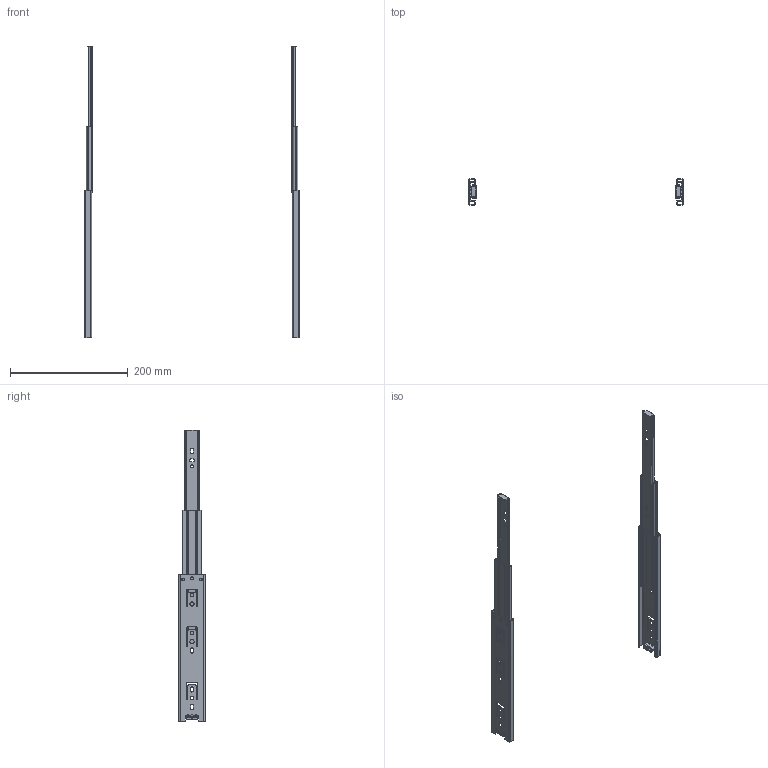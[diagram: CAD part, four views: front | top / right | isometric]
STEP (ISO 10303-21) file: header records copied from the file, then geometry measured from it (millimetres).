
FILE_DESCRIPTION(/* description */ (''),/* implementation_level */ '2;1');
FILE_NAME(/* name */ 'D:\$Workingspace\Designs\Katalog\Cadsoft\GTV Prowadnice\Prowadnice GTV_bryły 3D\PK-0H45250GX_wysunieta.stp',/* time_stamp */ '2016-11-22T11:41:10+01:00',/* author */ ('tomaszw'),/* organization */ (''),/* preprocessor_version */ 'ST-DEVELOPER v16.1',/* originating_system */ 'Autodesk Inventor 2016',/* authorisation */ '');
FILE_SCHEMA (('AUTOMOTIVE_DESIGN { 1 0 10303 214 3 1 1 }'));
Length unit declared in the file: millimetre
Products named in the file (5): Blokada_5; PK-0H45_1-250-GX; PK-0H45_2-250-GX; PK-0H45_3-250-GX; PK-0H45-_-GX
Assembly tree (8 placements, depth 2):
  PK-0H45-_-GX
    Blokada_5  x2
    PK-0H45_1-250-GX  x2
    PK-0H45_2-250-GX  x2
    PK-0H45_3-250-GX  x2
Bounding box: 364 x 44.5 x 495 mm (x, y, z)
Volume: 74308.5 mm3; surface area: 151026.2 mm2
Topology: 8 solids, 8 shells, 430 faces, 1234 edges, 820 vertices
Faces by surface type: cylinder 218, plane 208, cone 4
Full cylindrical faces by diameter (mm): 4.5 x2, 5 x2, 6 x6, 7 x4
Entity records: 7511 total; most frequent: DIRECTION 1274, CARTESIAN_POINT 1274, ORIENTED_EDGE 1220, EDGE_CURVE 610, AXIS2_PLACEMENT_3D 444, VERTEX_POINT 410, LINE 386, VECTOR 386
